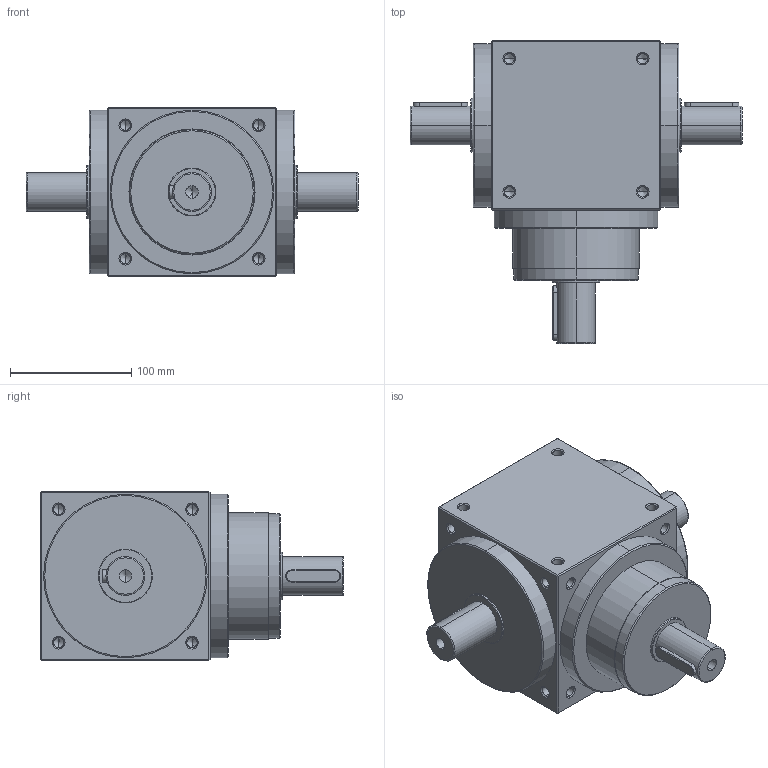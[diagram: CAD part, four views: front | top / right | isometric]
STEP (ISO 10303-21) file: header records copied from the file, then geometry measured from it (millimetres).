
FILE_DESCRIPTION (( 'STEP AP214' ), '1' );
FILE_NAME ('AT140-L-L1.STEP', '2019-08-21T04:33:39', ( 'User' ), ( 'Far123' ), 'SwSTEP 2.0', 'SolidWorks 2015', '' );
FILE_SCHEMA (( 'AUTOMOTIVE_DESIGN' ));
Length unit declared in the file: millimetre
Products named in the file (1): AT140-L-L1
Bounding box: 274 x 250 x 140 mm (x, y, z)
Volume: 3848385.4 mm3; surface area: 179087.6 mm2
Topology: 1 solids, 1 shells, 310 faces, 788 edges, 435 vertices
Faces by surface type: cylinder 130, cone 118, plane 52, torus 10
Entity records: 10004 total; most frequent: CARTESIAN_POINT 2176, ORIENTED_EDGE 1468, DIRECTION 1432, EDGE_CURVE 734, AXIS2_PLACEMENT_3D 553, VERTEX_POINT 435, EDGE_LOOP 351, LINE 326
